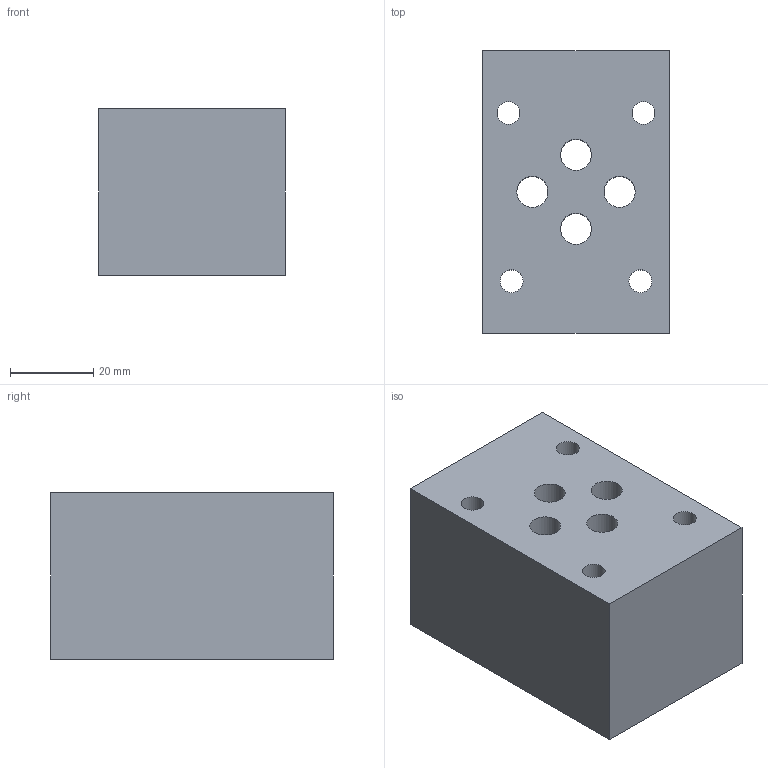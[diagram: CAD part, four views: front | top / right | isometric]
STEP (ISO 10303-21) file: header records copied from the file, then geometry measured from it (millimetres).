
FILE_DESCRIPTION(('Bauteilbeschreibung','HiCAD-Model','HiCAD-STEP-TRANSLATION','Bauteilbeschreibung'),'2;1');
FILE_NAME('C:/_EIGENE_DATEN/DXF_STEP/RNNSA06_3508.STP','2008-08-25T15:21:04+00:00',('Konstrukteur'),('Konstrukteur Firma GmbH'),' HiCAD neXt 2007, Step 3.1.1212.3C ','HiCAD neXt 2007','confidential');
FILE_SCHEMA(('AUTOMOTIVE_DESIGN { 1 2 10303 214 0 1 1 1 }'));
Length unit declared in the file: millimetre
Products named in the file (3): RNNSA06_3508; RNNSA06   ; F686E71F
Assembly tree (2 placements, depth 3):
  RNNSA06_3508
    RNNSA06   
      F686E71F
Bounding box: 45 x 68 x 40 mm (x, y, z)
Volume: 111121.7 mm3; surface area: 21232.7 mm2
Topology: 1 solids, 1 shells, 22 faces, 60 edges, 44 vertices
Faces by surface type: cylinder 12, plane 10
Full cylindrical faces by diameter (mm): 5.5 x4, 7.5 x4, 12.5 x4
Entity records: 1014 total; most frequent: DIRECTION 112, CARTESIAN_POINT 94, ORIENTED_EDGE 72, COLOUR_RGB 59, PRESENTATION_STYLE_ASSIGNMENT 59, OVER_RIDING_STYLED_ITEM 58, EDGE_LOOP 54, AXIS2_PLACEMENT_3D 50
